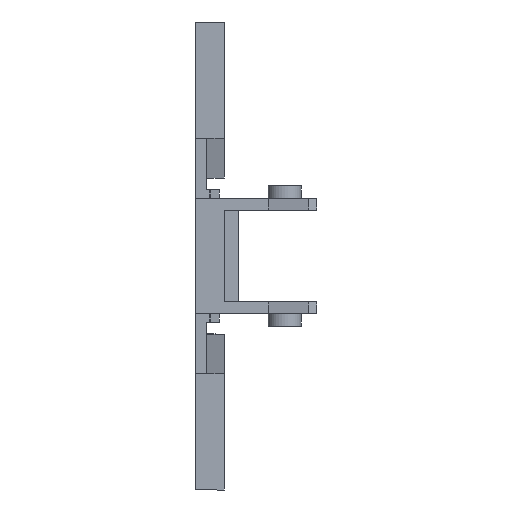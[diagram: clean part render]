
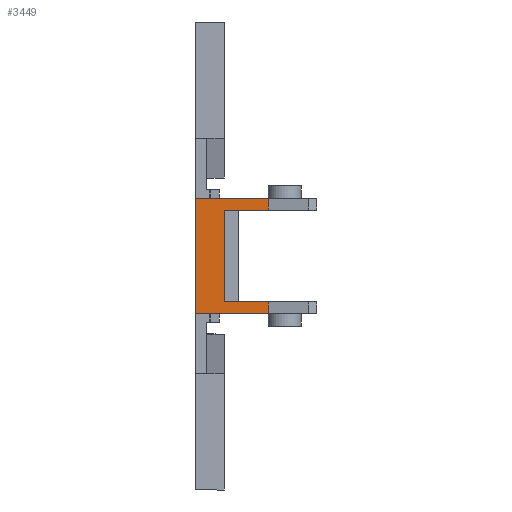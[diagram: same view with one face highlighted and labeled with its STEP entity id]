
A CAD part, front view. The second image highlights one B-rep face of the part: STEP entity #3449.
In plain terms, the highlighted planar face has unit normal (0, -1, 0).
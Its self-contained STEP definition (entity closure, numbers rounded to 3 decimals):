
#7 = LINE ( 'NONE', #1871, #1516 ) ;
#38 = AXIS2_PLACEMENT_3D ( 'NONE', #700, #706, #707 ) ;
#235 = CARTESIAN_POINT ( 'NONE',  ( 3., -25.55, 4.7 ) ) ;
#236 = CARTESIAN_POINT ( 'NONE',  ( 3., -25.55, -4.7 ) ) ;
#237 = CARTESIAN_POINT ( 'NONE',  ( 7.523, -25.55, 4.7 ) ) ;
#238 = CARTESIAN_POINT ( 'NONE',  ( 7.523, -25.55, 5.9 ) ) ;
#239 = CARTESIAN_POINT ( 'NONE',  ( 0., -25.55, 5.9 ) ) ;
#240 = CARTESIAN_POINT ( 'NONE',  ( 0., -25.55, -5.9 ) ) ;
#241 = CARTESIAN_POINT ( 'NONE',  ( 7.523, -25.55, -5.9 ) ) ;
#242 = CARTESIAN_POINT ( 'NONE',  ( 7.523, -25.55, -4.7 ) ) ;
#697 = PLANE ( 'NONE',  #38 ) ;
#700 = CARTESIAN_POINT ( 'NONE',  ( 12.5, -25.55, -5.9 ) ) ;
#706 = DIRECTION ( 'NONE',  ( 0., -1., 0. ) ) ;
#707 = DIRECTION ( 'NONE',  ( -1., 0., 0. ) ) ;
#832 = EDGE_CURVE ( 'NONE', #1557, #1556, #2182, .T. ) ;
#906 = EDGE_CURVE ( 'NONE', #1557, #1558, #7, .T. ) ;
#917 = EDGE_CURVE ( 'NONE', #1561, #1560, #2562, .T. ) ;
#949 = EDGE_CURVE ( 'NONE', #1554, #1556, #2858, .T. ) ;
#985 = EDGE_CURVE ( 'NONE', #1559, #1560, #2916, .T. ) ;
#1019 = EDGE_CURVE ( 'NONE', #1554, #1555, #2976, .T. ) ;
#1079 = EDGE_CURVE ( 'NONE', #1555, #1561, #3055, .T. ) ;
#1119 = EDGE_CURVE ( 'NONE', #1558, #1559, #3153, .T. ) ;
#1158 = EDGE_LOOP ( 'NONE', ( #1388, #1354, #1455, #1456, #1341, #1340, #1353, #1352 ) ) ;
#1340 = ORIENTED_EDGE ( 'NONE', *, *, #985, .T. ) ;
#1341 = ORIENTED_EDGE ( 'NONE', *, *, #1119, .T. ) ;
#1352 = ORIENTED_EDGE ( 'NONE', *, *, #1079, .F. ) ;
#1353 = ORIENTED_EDGE ( 'NONE', *, *, #917, .F. ) ;
#1354 = ORIENTED_EDGE ( 'NONE', *, *, #949, .T. ) ;
#1388 = ORIENTED_EDGE ( 'NONE', *, *, #1019, .F. ) ;
#1455 = ORIENTED_EDGE ( 'NONE', *, *, #832, .F. ) ;
#1456 = ORIENTED_EDGE ( 'NONE', *, *, #906, .T. ) ;
#1516 = VECTOR ( 'NONE', #1874, 1000. ) ;
#1554 = VERTEX_POINT ( 'NONE', #235 ) ;
#1555 = VERTEX_POINT ( 'NONE', #236 ) ;
#1556 = VERTEX_POINT ( 'NONE', #237 ) ;
#1557 = VERTEX_POINT ( 'NONE', #238 ) ;
#1558 = VERTEX_POINT ( 'NONE', #239 ) ;
#1559 = VERTEX_POINT ( 'NONE', #240 ) ;
#1560 = VERTEX_POINT ( 'NONE', #241 ) ;
#1561 = VERTEX_POINT ( 'NONE', #242 ) ;
#1723 = CARTESIAN_POINT ( 'NONE',  ( 7.523, -25.55, 67.733 ) ) ;
#1729 = DIRECTION ( 'NONE',  ( 0., 0., -1. ) ) ;
#1871 = CARTESIAN_POINT ( 'NONE',  ( 12.5, -25.55, 5.9 ) ) ;
#1874 = DIRECTION ( 'NONE',  ( -1., 0., 0. ) ) ;
#1891 = CARTESIAN_POINT ( 'NONE',  ( 7.523, -25.55, 67.733 ) ) ;
#1896 = DIRECTION ( 'NONE',  ( 0., 0., -1. ) ) ;
#1962 = CARTESIAN_POINT ( 'NONE',  ( 12.5, -25.55, 4.7 ) ) ;
#1963 = DIRECTION ( 'NONE',  ( 1., 0., 0. ) ) ;
#2026 = CARTESIAN_POINT ( 'NONE',  ( 1.5, -25.55, -5.9 ) ) ;
#2027 = DIRECTION ( 'NONE',  ( 1., 0., 0. ) ) ;
#2182 = LINE ( 'NONE', #1723, #2191 ) ;
#2191 = VECTOR ( 'NONE', #1729, 1000. ) ;
#2562 = LINE ( 'NONE', #1891, #2801 ) ;
#2579 = DIRECTION ( 'NONE',  ( 0., 0., -1. ) ) ;
#2599 = CARTESIAN_POINT ( 'NONE',  ( 0., -25.55, 15.37 ) ) ;
#2610 = DIRECTION ( 'NONE',  ( 1., 0., 0. ) ) ;
#2617 = DIRECTION ( 'NONE',  ( 0., 0., -1. ) ) ;
#2777 = CARTESIAN_POINT ( 'NONE',  ( 12.5, -25.55, -4.7 ) ) ;
#2787 = CARTESIAN_POINT ( 'NONE',  ( 3., -25.55, -5.9 ) ) ;
#2801 = VECTOR ( 'NONE', #1896, 1000. ) ;
#2858 = LINE ( 'NONE', #1962, #2859 ) ;
#2859 = VECTOR ( 'NONE', #1963, 1000. ) ;
#2916 = LINE ( 'NONE', #2026, #2917 ) ;
#2917 = VECTOR ( 'NONE', #2027, 1000. ) ;
#2976 = LINE ( 'NONE', #2787, #2977 ) ;
#2977 = VECTOR ( 'NONE', #2579, 1000. ) ;
#3055 = LINE ( 'NONE', #2777, #3084 ) ;
#3084 = VECTOR ( 'NONE', #2610, 1000. ) ;
#3153 = LINE ( 'NONE', #2599, #3154 ) ;
#3154 = VECTOR ( 'NONE', #2617, 1000. ) ;
#3323 = FACE_OUTER_BOUND ( 'NONE', #1158, .T. ) ;
#3449 = ADVANCED_FACE ( 'NONE', ( #3323 ), #697, .T. ) ;
